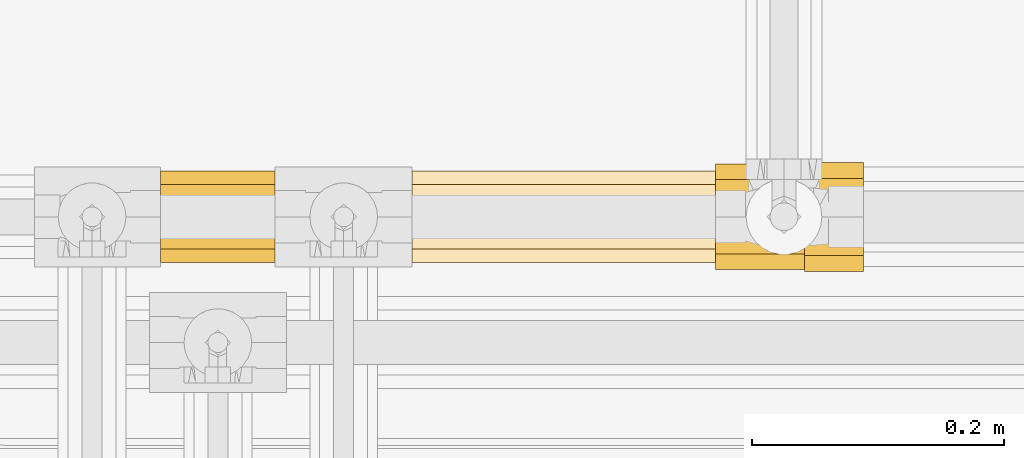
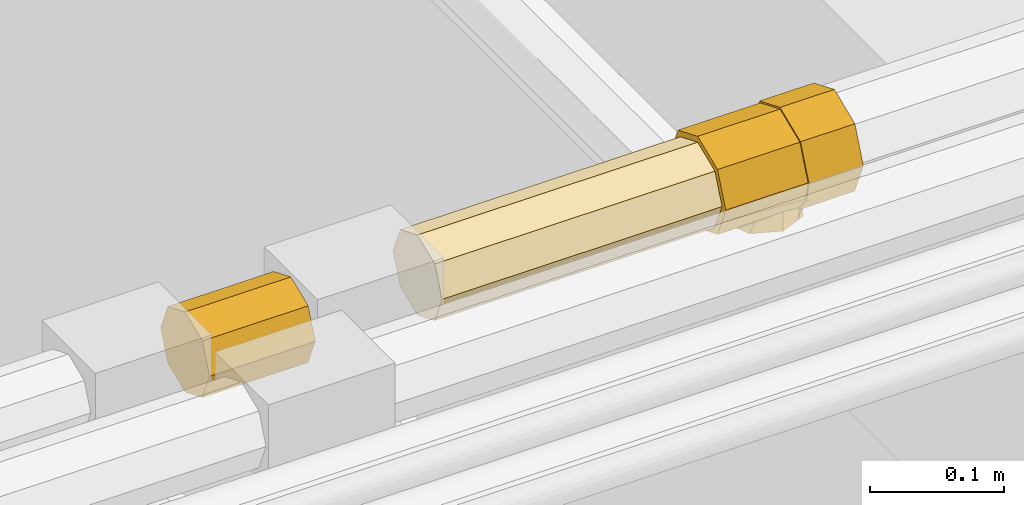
# One storey, part 176 of 652: 3 coverings.
"""IFC2X3 building model written with IfcOpenShell, lengths in millimetres."""

from ifc_helpers import new_model, entity, si_unit, converted_unit, direction, frame, origin, place, context, subcontext, project, spatial, faceted_brep, material, type_object, element, save


model = new_model("IFC2X3")

# Units and contexts
model_context = context("Model", 3, precision=0.01, world=frame((0.0, 0.0, 308426.39999999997)), true_north=direction((6.123233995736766e-17, 1.0)))
plan_context = context("Plan", 3, precision=0.01, world=frame((0.0, 0.0, 308426.39999999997)), true_north=direction((6.123233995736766e-17, 1.0)))
body_context = subcontext(model_context, "Body", "Model", "MODEL_VIEW")
ifc_project = project(units=[si_unit("LENGTHUNIT", "METRE", prefix="MILLI"), si_unit("AREAUNIT", "SQUARE_METRE"), si_unit("VOLUMEUNIT", "CUBIC_METRE"), converted_unit("PLANEANGLEUNIT", "DEGREE", entity("IfcPlaneAngleMeasure", 0.017453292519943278), si_unit("PLANEANGLEUNIT", "RADIAN"), dimensions=[0, 0, 0, 0, 0, 0, 0])], contexts=[model_context, plan_context])

# Site, building, storey
site_placement = place(None, origin())
site = spatial("IfcSite", under=ifc_project, at=site_placement, Name="Default", CompositionType="ELEMENT")
building_placement = place(site_placement, origin())
building = spatial("IfcBuilding", under=site, at=building_placement, CompositionType="ELEMENT")
storey_placement = place(building_placement, frame((0.0, 0.0, 1730.6999999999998)))
storey = spatial("IfcBuildingStorey", under=building, at=storey_placement, Name="EG_Produktion_FFB", CompositionType="ELEMENT", Elevation=1730.6999999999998)

# Coverings
ifc_material = material(Name="Dämmung - Armaflex-Schlauch")
covering_type = type_object("IfcCoveringType", Name="Rohrdämmung außen:Armaflex-Schlauch", PredefinedType="INSULATION")
covering_1_placement = place(storey_placement, frame((64824.44724999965, 41586.94067746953, 3761.9422277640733)))
element("IfcCovering", 1, at=covering_1_placement, inside=storey, type_object=covering_type, material=ifc_material, Name="Rohrdämmung außen:Armaflex-Schlauch", ObjectType="Rohrdämmung außen:Armaflex-Schlauch", PredefinedType="INSULATION", context=body_context, shape_type="Brep", body=[
    faceted_brep([(0.0, 1.5952722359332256, 38.05777223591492), (0.0, 3.6706484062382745, 43.06817353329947), (0.0, 6.935081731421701, 50.94921274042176), (0.0, 9.604986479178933, 57.39493299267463), (0.0, 12.27489122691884, 63.840653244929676), (0.0, 18.720611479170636, 66.510557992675), (0.0, 25.166331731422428, 69.1804627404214), (0.0, 31.612051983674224, 71.8503674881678), (0.0, 38.057772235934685, 74.5202722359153), (0.0, 43.06817353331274, 72.44489606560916), (0.0, 50.94921274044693, 69.1804627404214), (0.0, 57.39493299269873, 66.510557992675), (0.0, 63.84065324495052, 63.840653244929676), (0.0, 66.51055799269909, 57.39493299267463), (0.0, 69.18046274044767, 50.94921274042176), (0.0, 71.85036748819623, 44.5034924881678), (0.0, 74.52027223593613, 38.05777223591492), (0.0, 71.85036748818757, 31.612051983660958), (0.0, 69.18046274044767, 25.166331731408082), (0.0, 66.51055799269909, 18.720611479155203), (0.0, 63.84065324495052, 12.274891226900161), (0.0, 57.39493299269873, 9.60498647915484), (0.0, 50.94921274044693, 6.935081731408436), (0.0, 44.503492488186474, 4.265176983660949), (0.0, 38.057772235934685, 1.5952722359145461), (0.0, 33.047370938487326, 3.6706484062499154), (0.0, 25.166331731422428, 6.935081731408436), (0.0, 18.720611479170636, 9.60498647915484), (0.0, 12.27489122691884, 12.274891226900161), (0.0, 9.60498647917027, 18.720611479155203), (0.0, 6.935081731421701, 25.166331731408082), (0.0, 4.265176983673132, 31.612051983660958), (241.10549999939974, 18.72061147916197, 9.604986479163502), (241.10549999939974, 25.166331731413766, 6.935081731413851), (241.10549999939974, 31.612051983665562, 4.265176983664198), (241.10549999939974, 38.057772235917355, 1.5952722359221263), (241.10549999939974, 48.07857484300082, 5.746024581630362), (241.10549999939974, 55.95961404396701, 9.010457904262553), (241.10549999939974, 63.8406532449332, 12.27489122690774), (241.10549999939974, 66.51055799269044, 18.720611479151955), (241.10549999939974, 69.180462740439, 25.166331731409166), (241.10549999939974, 71.85036748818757, 31.612051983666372), (241.10549999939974, 74.52027223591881, 38.0577722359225), (241.10549999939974, 70.36951989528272, 48.0785748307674), (241.10549999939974, 67.1050865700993, 55.95961403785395), (241.10549999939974, 63.8406532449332, 63.84065324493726), (241.10549999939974, 57.394932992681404, 66.51055799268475), (241.10549999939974, 50.94921274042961, 69.1804627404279), (241.10549999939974, 44.50349248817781, 71.85036748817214), (241.10549999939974, 38.057772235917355, 74.52027223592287), (241.10549999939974, 28.03696964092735, 70.36951989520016), (241.10549999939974, 20.155930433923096, 67.10508657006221), (241.10549999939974, 12.274891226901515, 63.84065324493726), (241.10549999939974, 9.60498647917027, 57.39493299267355), (241.10549999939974, 6.935081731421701, 50.949212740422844), (241.10549999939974, 4.265176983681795, 44.503492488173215), (241.10549999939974, 1.5952722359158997, 38.0577722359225), (241.10549999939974, 5.746024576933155, 28.036969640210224), (241.10549999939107, 9.010457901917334, 20.155930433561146), (241.10549999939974, 12.274891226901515, 12.27489122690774)], [[[0, 1, 2, 3, 4, 5, 6, 7, 8, 9, 10, 11, 12, 13, 14, 15, 16, 17, 18, 19, 20, 21, 22, 23, 24, 25, 26, 27, 28, 29, 30, 31]], [[32, 33, 34, 35, 36, 37, 38, 39, 40, 41, 42, 43, 44, 45, 46, 47, 48, 49, 50, 51, 52, 53, 54, 55, 56, 57, 58, 59]], [[40, 39, 38, 20, 19, 18, 17, 16, 42, 41]], [[36, 35, 24, 23, 22, 21, 20, 38, 37]], [[33, 32, 59, 28, 27, 26, 25, 24, 35, 34]], [[28, 59, 58, 57, 56, 0, 31, 30, 29]], [[54, 53, 52, 4, 3, 2, 1, 0, 56, 55]], [[4, 52, 51, 50, 49, 8, 7, 6, 5]], [[47, 46, 45, 12, 11, 10, 9, 8, 49, 48]], [[12, 45, 44, 43, 42, 16, 15, 14, 13]]]),
])
covering_2_placement = place(storey_placement, frame((64624.44724999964, 41586.940677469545, 3761.942227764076)))
element("IfcCovering", 2, at=covering_2_placement, inside=storey, type_object=covering_type, material=ifc_material, Name="Rohrdämmung außen:Armaflex-Schlauch", ObjectType="Rohrdämmung außen:Armaflex-Schlauch", PredefinedType="INSULATION", context=body_context, shape_type="Brep", body=[
    faceted_brep([(91.10550000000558, 74.52027223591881, 38.057772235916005), (91.10550000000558, 71.77409001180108, 44.68764260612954), (91.10550000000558, 69.18046274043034, 50.949212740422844), (91.10550000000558, 66.51055799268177, 57.39493299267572), (91.10550000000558, 63.8406532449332, 63.84065324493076), (91.10550000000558, 57.394932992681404, 66.51055799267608), (91.10550000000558, 50.94921274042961, 69.18046274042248), (91.10550000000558, 44.68764260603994, 71.77409001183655), (91.10550000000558, 38.057772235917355, 74.52027223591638), (91.10550000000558, 31.427901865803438, 71.7740900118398), (91.10550000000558, 25.166331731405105, 69.18046274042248), (91.10550000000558, 18.72061147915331, 66.51055799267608), (91.10550000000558, 12.274891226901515, 63.84065324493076), (91.10550000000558, 9.604986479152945, 57.39493299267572), (91.10550000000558, 6.935081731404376, 50.949212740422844), (91.10550000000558, 4.341454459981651, 44.6876426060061), (91.10550000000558, 1.5952722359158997, 38.057772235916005), (91.10550000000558, 4.265176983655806, 31.61205198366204), (91.10550000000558, 6.935081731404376, 25.166331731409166), (91.10549999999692, 9.604986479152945, 18.720611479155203), (91.10550000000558, 12.274891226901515, 12.274891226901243), (91.10550000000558, 18.72061147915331, 9.604986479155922), (91.10550000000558, 25.166331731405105, 6.935081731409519), (91.10550000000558, 31.42790186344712, 4.3414544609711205), (91.10550000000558, 38.057772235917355, 1.595272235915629), (91.10550000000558, 44.68764260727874, 4.341454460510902), (91.10550000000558, 50.94921274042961, 6.935081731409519), (91.10550000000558, 57.394932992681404, 9.604986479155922), (91.10550000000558, 63.8406532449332, 12.274891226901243), (91.10550000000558, 66.51055799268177, 18.720611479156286), (91.10550000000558, 69.18046274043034, 25.166331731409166), (91.10550000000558, 71.77409001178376, 31.42790186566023), (0.0, 57.394932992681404, 9.604986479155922), (0.0, 50.94921274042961, 6.935081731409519), (0.0, 44.50349248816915, 4.265176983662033), (0.0, 38.057772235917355, 1.595272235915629), (0.0, 31.42790182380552, 4.34145447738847), (0.0, 24.79803141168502, 7.08763671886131), (0.0, 18.536461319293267, 9.681263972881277), (0.0, 12.274891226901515, 12.274891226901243), (0.0, 9.604986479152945, 18.720611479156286), (0.0, 6.935081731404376, 25.166331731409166), (0.0, 4.265176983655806, 31.61205198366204), (0.0, 1.5952722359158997, 38.057772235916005), (0.0, 4.341454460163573, 44.687642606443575), (0.0, 7.087636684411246, 51.31751297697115), (0.0, 9.681263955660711, 57.579083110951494), (0.0, 12.274891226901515, 63.84065324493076), (0.0, 18.72061147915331, 66.51055799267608), (0.0, 25.166331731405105, 69.18046274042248), (0.0, 31.612051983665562, 71.85036748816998), (0.0, 38.057772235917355, 74.52027223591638), (0.0, 44.68764260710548, 71.77409001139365), (0.0, 51.31751297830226, 69.02790778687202), (0.0, 57.579083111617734, 66.43428051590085), (0.0, 63.8406532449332, 63.84065324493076), (0.0, 66.51055799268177, 57.3949329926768), (0.0, 69.18046274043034, 50.949212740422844), (0.0, 71.85036748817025, 44.50349248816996), (0.0, 74.52027223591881, 38.057772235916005), (0.0, 71.77409001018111, 31.4279018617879), (0.0, 69.02790778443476, 24.79803148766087), (0.0, 66.43428051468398, 18.53646135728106), (0.0, 63.8406532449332, 12.274891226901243)], [[[0, 1, 2, 3, 4, 5, 6, 7, 8, 9, 10, 11, 12, 13, 14, 15, 16, 17, 18, 19, 20, 21, 22, 23, 24, 25, 26, 27, 28, 29, 30, 31]], [[32, 33, 34, 35, 36, 37, 38, 39, 40, 41, 42, 43, 44, 45, 46, 47, 48, 49, 50, 51, 52, 53, 54, 55, 56, 57, 58, 59, 60, 61, 62, 63]], [[40, 39, 20, 19, 18, 17, 16, 43, 42, 41]], [[20, 39, 38, 37, 36, 35, 24, 23, 22, 21]], [[24, 35, 34, 33, 32, 63, 28, 27, 26, 25]], [[28, 63, 62, 61, 60, 59, 0, 31, 30, 29]], [[0, 59, 58, 57, 56, 55, 4, 3, 2, 1]], [[4, 55, 54, 53, 52, 51, 8, 7, 6, 5]], [[8, 51, 50, 49, 48, 47, 12, 11, 10, 9]], [[12, 47, 46, 45, 44, 43, 16, 15, 14, 13]]]),
])
covering_3_placement = place(storey_placement, frame((65065.55274999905, 41580.089177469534, 3844.9092722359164)))
element("IfcCovering", 3, at=covering_3_placement, inside=storey, type_object=covering_type, material=ifc_material, Name="Rohrdämmung außen:Armaflex-Schlauch", ObjectType="Rohrdämmung außen:Armaflex-Schlauch", PredefinedType="INSULATION", context=body_context, shape_type="Brep", body=[
    faceted_brep([(70.84175000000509, 14.281649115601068, -14.281649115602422), (70.84175000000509, 21.938554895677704, -11.11005489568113), (70.84175000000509, 29.59546067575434, -7.9384606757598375), (70.84175000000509, 36.545736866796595, -5.059562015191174), (70.84175000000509, 44.909272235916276, -1.5952722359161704), (70.84175000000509, 53.27280874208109, -5.059562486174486), (70.84175000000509, 60.223083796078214, -7.9384606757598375), (70.84175000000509, 67.87998957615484, -11.11005489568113), (70.84175000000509, 75.53689535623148, -14.281649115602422), (70.84175000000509, 78.70848957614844, -21.93855489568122), (70.84175000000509, 81.88008379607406, -29.595460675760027), (70.84175000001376, 84.75898225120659, -36.545736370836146), (70.84175000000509, 88.22327223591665, -44.909272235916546), (70.84175000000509, 86.24688270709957, -53.94803434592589), (70.84175000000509, 84.27049317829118, -62.986796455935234), (70.84175000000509, 78.7053147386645, -70.37302224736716), (70.84175000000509, 73.14013629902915, -77.75924803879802), (70.84175000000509, 73.14013629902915, -75.71993672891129), (70.84175000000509, 76.5000752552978, -71.03139740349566), (70.84175000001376, 79.86001421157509, -66.34285807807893), (70.84175000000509, 83.15848265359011, -61.74009618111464), (70.84175000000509, 84.92812744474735, -53.3246842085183), (70.84175000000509, 86.69777223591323, -44.909272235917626), (70.84175000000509, 83.63788016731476, -37.52203930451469), (70.84175000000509, 80.57798809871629, -30.134806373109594), (70.84175000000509, 77.51809603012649, -22.74757344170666), (70.84175000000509, 74.45820396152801, -15.360340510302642), (70.84175000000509, 64.91427013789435, -11.407113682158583), (70.84175000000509, 55.37033631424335, -7.453886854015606), (70.84175000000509, 44.909272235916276, -3.1207722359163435), (70.84175000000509, 37.52203930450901, -6.180664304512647), (70.84175000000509, 30.134806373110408, -9.240556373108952), (70.84175000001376, 22.747573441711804, -12.30044844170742), (70.84175000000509, 15.360340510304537, -15.360340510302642), (70.84175000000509, 11.407113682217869, -24.904274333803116), (70.84175000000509, 7.453886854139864, -34.44820815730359), (70.84175000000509, 3.1207722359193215, -44.90927223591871), (70.84175000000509, 4.890417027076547, -53.32468420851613), (70.84175000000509, 6.6600618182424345, -61.74009618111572), (70.84175000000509, 9.958530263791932, -66.34285808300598), (70.84175000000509, 13.31846921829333, -71.03139740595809), (70.84175000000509, 14.998438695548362, -73.37566706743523), (70.84175000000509, 15.838423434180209, -74.54780189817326), (70.84175000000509, 16.678408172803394, -75.71993672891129), (70.84175000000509, 16.678408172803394, -77.75924803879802), (70.84175000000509, 11.113229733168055, -70.37302224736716), (70.84175000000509, 5.54805129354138, -62.986796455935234), (70.84175000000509, 3.5716617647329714, -53.94803434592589), (70.84175000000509, 1.5952722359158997, -44.909272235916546), (70.84175000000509, 5.059562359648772, -36.54573603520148), (70.84175000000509, 8.523852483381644, -28.18219983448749), (70.84175000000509, 11.402750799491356, -21.231924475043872), (117.59400000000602, 85.05167801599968, -37.252366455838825), (117.59400000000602, 81.8800837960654, -29.595460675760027), (117.59400000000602, 78.7084895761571, -21.93855489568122), (117.59400000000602, 75.53689535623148, -14.281649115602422), (117.59400000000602, 68.58662082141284, -11.402751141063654), (117.59400000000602, 61.636346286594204, -8.523853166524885), (117.59400000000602, 53.272809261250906, -5.059562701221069), (117.59400000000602, 44.909272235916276, -1.5952722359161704), (117.59400000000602, 37.25236645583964, -4.766866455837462), (117.59400000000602, 29.59546067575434, -7.9384606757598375), (117.59400000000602, 21.938554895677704, -11.11005489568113), (117.59400000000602, 14.281649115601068, -14.281649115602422), (117.59400000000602, 11.110054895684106, -21.93855489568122), (117.59400000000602, 7.938460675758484, -29.595460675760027), (117.59400000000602, 4.766866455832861, -37.252366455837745), (117.59400000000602, 1.5952722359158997, -44.909272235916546), (117.59400000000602, 5.0595620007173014, -53.27280757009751), (117.59400000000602, 7.938460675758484, -60.22308379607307), (117.59400000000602, 11.110054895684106, -67.87998957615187), (117.59400000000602, 14.281649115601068, -75.53689535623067), (117.59400000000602, 21.938554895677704, -78.70848957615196), (117.59400000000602, 29.59546067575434, -81.88008379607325), (117.59400000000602, 37.25236645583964, -85.05167801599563), (117.59400000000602, 44.909272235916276, -88.22327223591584), (117.59400000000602, 53.27280758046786, -84.75898246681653), (117.59400000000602, 60.223083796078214, -81.88008379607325), (117.59400000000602, 67.87998957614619, -78.70848957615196), (117.59400000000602, 75.53689535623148, -75.53689535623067), (117.59400000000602, 78.70848957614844, -67.87998957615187), (117.59400000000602, 81.88008379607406, -60.22308379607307), (117.59400000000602, 85.05167801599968, -52.56617801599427), (117.59400000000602, 88.22327223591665, -44.909272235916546), (83.84790964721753, 54.67733996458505, -85.89527898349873), (87.09325000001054, 44.909272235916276, -88.22327223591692), (86.8904162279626, 45.519776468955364, -88.07777265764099), (86.687582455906, 46.13028070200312, -87.93227307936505), (86.28191491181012, 47.3512891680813, -87.6412739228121), (85.87624736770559, 48.57229763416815, -87.35027476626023), (85.47057982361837, 49.793306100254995, -87.05927560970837), (85.06491227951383, 51.01431456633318, -86.7682764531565), (84.65924473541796, 52.23532303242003, -86.47727729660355), (80.60256929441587, 64.4454076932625, -83.56728573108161), (75.72215964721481, 68.79277199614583, -80.66326688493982), (83.03657455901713, 57.119356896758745, -85.31328067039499), (82.22523947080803, 59.56137382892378, -84.73128235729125), (84.06491373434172, 31.177727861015, -85.98903958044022), (84.44345576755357, 32.894170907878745, -86.26831866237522), (84.82199780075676, 34.61061395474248, -86.54759774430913), (85.2005398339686, 36.32705700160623, -86.82687682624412), (85.57908186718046, 38.04350004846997, -87.10615590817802), (85.95762390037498, 39.75994309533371, -87.38543499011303), (86.14689491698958, 40.61816461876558, -87.52507453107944), (86.3361659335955, 41.476386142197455, -87.66471407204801), (86.52543695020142, 42.33460766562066, -87.80435361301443), (86.71470796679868, 43.19282918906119, -87.94399315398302), (86.90397898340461, 44.051050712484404, -88.08363269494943), (77.45333186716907, 23.928068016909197, -81.87414380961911), (80.75912280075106, 27.552897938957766, -83.9315916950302), (82.41201826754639, 29.365312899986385, -84.96031563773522), (0.0, 74.45820396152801, -74.45820396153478), (0.0, 67.07097103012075, -77.51809603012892), (0.0, 59.683738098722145, -80.57798809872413), (0.0, 52.29650516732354, -83.63788016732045), (0.0, 44.909272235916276, -86.69777223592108), (0.0, 37.52203930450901, -83.63788016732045), (0.0, 30.134806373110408, -80.57798809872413), (0.0, 22.74757344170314, -77.51809603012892), (0.0, 15.360340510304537, -74.45820396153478), (0.0, 12.300448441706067, -67.07097103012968), (0.0, 9.240556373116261, -59.68373809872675), (0.0, 6.180664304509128, -52.296505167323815), (0.0, 3.1207722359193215, -44.90927223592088), (0.0, 6.180664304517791, -37.52203930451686), (0.0, 9.240556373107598, -30.13480637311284), (0.0, 12.300448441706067, -22.747573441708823), (0.0, 15.360340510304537, -15.360340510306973), (0.0, 22.74757344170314, -12.30044844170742), (0.0, 30.134806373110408, -9.240556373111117), (0.0, 37.52203930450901, -6.180664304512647), (0.0, 44.909272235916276, -3.120772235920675), (0.0, 52.29650516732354, -6.18066430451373), (0.0, 59.683738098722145, -9.240556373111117), (0.0, 67.07097103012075, -12.30044844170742), (0.0, 74.45820396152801, -15.360340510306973), (0.0, 77.51809603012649, -22.747573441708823), (0.0, 80.57798809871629, -30.13480637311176), (0.0, 83.63788016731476, -37.52203930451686), (0.0, 86.69777223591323, -44.90927223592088), (0.0, 84.53121486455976, -50.139804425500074), (0.0, 80.57798809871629, -59.68373809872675), (0.0, 77.51809603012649, -67.0709710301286), (29.171926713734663, 65.57129897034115, -81.23225922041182), (54.44725000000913, 77.55527223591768, -70.99600097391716), (21.801250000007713, 44.909272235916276, -86.69777223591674), (60.37602925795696, 77.01240125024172, -71.66124113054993), (41.809588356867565, 71.5632856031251, -76.11413009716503), (35.49075753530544, 68.56729228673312, -78.67319465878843), (25.48658835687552, 55.240285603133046, -83.96501572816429), (23.643919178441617, 50.07477891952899, -85.33139398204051), (47.630199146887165, 74.32305422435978, -73.75683976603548), (27.32925753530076, 60.405792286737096, -82.59863747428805), (34.14671943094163, 19.342696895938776, -77.96421071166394), (44.29698471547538, 15.802984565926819, -74.48010584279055), (54.44725000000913, 12.26327223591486, -70.99600097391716), (27.97398471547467, 32.125984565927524, -82.33099147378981), (31.06035207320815, 25.73434073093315, -80.14760109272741), (24.887617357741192, 38.5176284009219, -84.51438185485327), (65.86359774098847, 14.3244995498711, -73.38470747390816), (67.31126014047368, 15.009023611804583, -74.06379951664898), (68.7589225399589, 15.693547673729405, -74.74289155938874), (62.20681236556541, 13.66426511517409, -72.61957774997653), (23.344433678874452, 41.713450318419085, -85.60607704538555), (60.2183019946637, 75.16482423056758, -88.76822223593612), (65.98935398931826, 72.77437622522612, -88.76822223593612), (71.76040598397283, 70.383928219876, -88.76822223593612), (77.5314579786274, 67.99348021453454, -88.76822223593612), (79.92190598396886, 62.22242821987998, -88.76822223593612), (81.11712998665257, 59.33690222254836, -88.76822223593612), (82.31235398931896, 56.45137622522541, -88.76822223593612), (83.50757799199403, 53.56585022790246, -88.76822223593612), (84.10518999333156, 52.123087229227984, -88.76822223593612), (84.70280199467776, 50.68032423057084, -88.76822223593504), (85.30041399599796, 49.237561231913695, -88.76822223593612), (85.89802599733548, 47.79479823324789, -88.76822223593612), (86.19683199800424, 47.073416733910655, -88.76822223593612), (86.49563799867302, 46.35203523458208, -88.76822223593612), (86.79444399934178, 45.63065373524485, -88.76822223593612), (87.09325000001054, 44.909272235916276, -88.76822223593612), (86.79444399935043, 44.187890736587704, -88.76822223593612), (86.49563799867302, 43.46650923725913, -88.76822223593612), (86.19683199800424, 42.7451277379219, -88.76822223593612), (85.89802599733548, 42.02374623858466, -88.76822223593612), (85.30041399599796, 40.58098323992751, -88.76822223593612), (84.70280199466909, 39.138220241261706, -88.76822223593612), (84.1051899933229, 37.6954572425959, -88.76822223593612), (83.50757799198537, 36.252694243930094, -88.76822223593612), (82.90996599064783, 34.80993124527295, -88.76822223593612), (82.31235398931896, 33.36716824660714, -88.76822223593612), (81.11712998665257, 30.48164224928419, -88.76822223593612), (79.92190598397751, 27.596116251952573, -88.76822223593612), (77.5314579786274, 21.825064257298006, -88.76822223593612), (71.76040598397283, 19.43461625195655, -88.76822223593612), (65.98935398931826, 17.044168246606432, -88.76822223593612), (60.218301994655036, 14.653720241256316, -88.76822223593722), (54.44725000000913, 12.26327223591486, -88.76822223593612), (48.67619800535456, 14.653720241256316, -88.76822223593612), (42.905146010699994, 17.044168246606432, -88.76822223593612), (37.134094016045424, 19.43461625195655, -88.76822223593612), (31.363042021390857, 21.825064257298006, -88.76822223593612), (28.97259401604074, 27.596116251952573, -88.76822223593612), (26.58214601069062, 33.367168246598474, -88.76822223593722), (24.191698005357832, 39.138220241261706, -88.76822223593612), (22.99647400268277, 42.023746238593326, -88.76822223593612), (21.801250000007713, 44.909272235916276, -88.76822223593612), (24.191698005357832, 50.68032423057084, -88.76822223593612), (26.582146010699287, 56.45137622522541, -88.76822223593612), (28.97259401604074, 62.22242821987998, -88.76822223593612), (31.363042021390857, 67.99348021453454, -88.76822223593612), (37.134094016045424, 70.38392821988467, -88.76822223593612), (42.905146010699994, 72.77437622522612, -88.76822223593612), (48.676198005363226, 75.16482423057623, -88.76822223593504), (54.44725000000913, 77.55527223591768, -88.76822223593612), (54.44725000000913, 12.26327223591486, -76.29919721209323)], [[[0, 1, 2, 3, 4, 5, 6, 7, 8, 9, 10, 11, 12, 13, 14, 15, 16, 17, 18, 19, 20, 21, 22, 23, 24, 25, 26, 27, 28, 29, 30, 31, 32, 33, 34, 35, 36, 37, 38, 39, 40, 41, 42, 43, 44, 45, 46, 47, 48, 49, 50, 51]], [[52, 53, 54, 55, 56, 57, 58, 59, 60, 61, 62, 63, 64, 65, 66, 67, 68, 69, 70, 71, 72, 73, 74, 75, 76, 77, 78, 79, 80, 81, 82, 83]], [[57, 56, 55, 8, 7, 6, 5, 4, 59, 58]], [[8, 55, 54, 53, 52, 83, 12, 11, 10, 9]], [[15, 80, 79]], [[84, 77, 76]], [[13, 81, 14]], [[81, 80, 14]], [[78, 16, 79]], [[76, 85, 86, 87, 88, 89, 90, 91, 92, 84]], [[14, 80, 15]], [[78, 93, 94, 16]], [[82, 12, 83]], [[79, 16, 15]], [[77, 84, 95, 96, 93]], [[12, 82, 13]], [[76, 75, 85]], [[78, 77, 93]], [[82, 81, 13]], [[45, 71, 70]], [[47, 69, 68]], [[74, 97, 98, 99, 100, 101, 102, 103, 104, 105, 106, 107, 85]], [[44, 72, 71]], [[108, 73, 72]], [[71, 45, 44]], [[69, 47, 46]], [[74, 73, 97]], [[73, 108, 109, 110, 97]], [[68, 48, 47]], [[74, 85, 75]], [[70, 46, 45]], [[70, 69, 46]], [[72, 44, 108]], [[68, 67, 48]], [[63, 0, 51, 50, 49, 48, 67, 66, 65, 64]], [[0, 63, 62, 61, 60, 59, 4, 3, 2, 1]], [[111, 112, 113, 114, 115, 116, 117, 118, 119, 120, 121, 122, 123, 124, 125, 126, 127, 128, 129, 130, 131, 132, 133, 134, 135, 136, 137, 138, 139, 140, 141, 142]], [[26, 135, 134, 133, 132, 131, 29, 28, 27]], [[25, 24, 23, 22, 139, 138, 137, 136, 135, 26]], [[141, 21, 20]], [[143, 113, 112]], [[140, 22, 21]], [[142, 19, 144]], [[114, 145, 115]], [[142, 141, 19]], [[18, 17, 146]], [[144, 18, 146]], [[112, 147, 148, 143]], [[19, 18, 144]], [[111, 147, 112]], [[149, 114, 113]], [[22, 140, 139]], [[114, 149, 150, 145]], [[141, 140, 21]], [[111, 144, 151, 147]], [[144, 111, 142]], [[113, 143, 152, 149]], [[141, 20, 19]], [[119, 153, 154, 155]], [[153, 119, 118]], [[118, 156, 157, 153]], [[116, 158, 156]], [[42, 41, 40, 159, 160, 161, 43]], [[118, 117, 116, 156]], [[121, 37, 122]], [[40, 39, 155]], [[40, 155, 162, 159]], [[39, 120, 155]], [[121, 39, 38]], [[36, 123, 122]], [[115, 145, 163, 158]], [[115, 158, 116]], [[121, 38, 37]], [[36, 122, 37]], [[120, 39, 121]], [[120, 119, 155]], [[33, 127, 126, 125, 124, 123, 36, 35, 34]], [[32, 31, 30, 29, 131, 130, 129, 128, 127, 33]], [[164, 165, 166, 167, 168, 169, 170, 171, 172, 173, 174, 175, 176, 177, 178, 179, 180, 181, 182, 183, 184, 185, 186, 187, 188, 189, 190, 191, 192, 193, 194, 195, 196, 197, 198, 199, 200, 201, 202, 203, 204, 205, 206, 207, 208, 209, 210, 211, 212, 213]], [[168, 167, 93]], [[88, 177, 176, 175]], [[16, 94, 166]], [[171, 170, 84]], [[167, 94, 93]], [[166, 165, 16]], [[213, 144, 146]], [[16, 146, 17]], [[146, 165, 164, 213]], [[168, 96, 169]], [[170, 95, 84]], [[169, 95, 170]], [[90, 174, 173]], [[95, 169, 96]], [[96, 168, 93]], [[92, 171, 84]], [[173, 91, 90]], [[171, 92, 172]], [[172, 91, 173]], [[87, 178, 177]], [[91, 172, 92]], [[89, 174, 90]], [[175, 89, 88]], [[174, 89, 175]], [[86, 179, 178]], [[177, 88, 87]], [[179, 86, 85]], [[178, 87, 86]], [[94, 167, 166]], [[165, 146, 16]], [[147, 210, 148]], [[207, 152, 208]], [[211, 151, 213, 212]], [[151, 211, 147]], [[152, 143, 208]], [[206, 150, 149]], [[143, 209, 208]], [[150, 205, 145]], [[207, 149, 152]], [[149, 207, 206]], [[205, 150, 206]], [[209, 143, 148]], [[144, 213, 151]], [[210, 147, 211]], [[210, 209, 148]], [[157, 201, 200]], [[156, 202, 201]], [[158, 203, 202]], [[199, 198, 153, 200]], [[154, 153, 198]], [[155, 154, 197]], [[163, 204, 203]], [[157, 156, 201]], [[197, 196, 214, 155]], [[200, 153, 157]], [[202, 156, 158]], [[204, 145, 205]], [[203, 158, 163]], [[145, 204, 163]], [[154, 198, 197]], [[44, 43, 161, 160, 159]], [[194, 159, 195]], [[108, 191, 110, 109]], [[44, 194, 193]], [[191, 108, 192]], [[101, 186, 185]], [[101, 185, 102]], [[190, 97, 110]], [[97, 190, 189]], [[159, 194, 44]], [[97, 189, 98]], [[108, 44, 193]], [[110, 191, 190]], [[193, 192, 108]], [[183, 105, 104]], [[188, 98, 189]], [[187, 100, 99]], [[99, 188, 187]], [[100, 186, 101]], [[98, 188, 99]], [[181, 107, 106]], [[104, 184, 183]], [[186, 100, 187]], [[184, 104, 103, 102]], [[102, 185, 184]], [[180, 85, 107]], [[106, 182, 181]], [[182, 106, 105]], [[105, 183, 182]], [[85, 180, 179]], [[107, 181, 180]], [[214, 196, 195]], [[214, 162, 155]], [[162, 195, 159]], [[195, 162, 214]]]),
])

save(model, "model.ifc")
